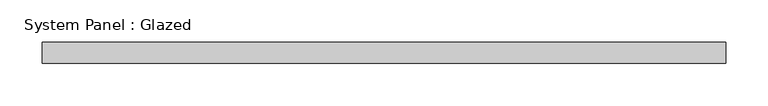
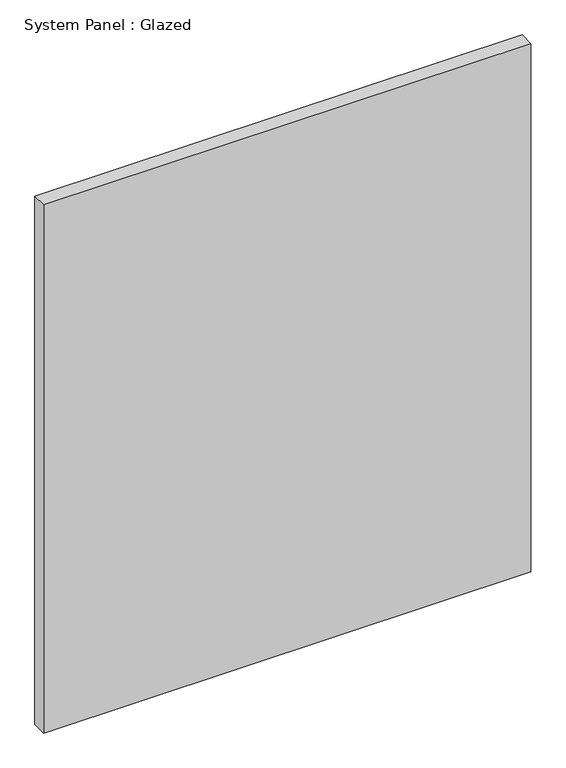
"""IFC4 building model written with IfcOpenShell, lengths in millimetres: plate geometry, System Panel : Glazed."""

from ifc_helpers import new_model, si_unit, origin, origin_with_axes, place, context, project, spatial, polyline, outline, extrude, source, transform, mapped, element, save


def system_panel_glazed_7936f581(model_context):
    return source(origin(), model_context, "Body", "SweptSolid", [
        extrude(outline(polyline([(403.6974994, 24.5), (-403.6974994, 24.5), (-403.6974994, 49.5), (403.6974994, 49.5), (403.6974994, 24.5)])), origin_with_axes(), (0.0, 0.0, 1.0), 925.0),
    ])


if __name__ == "__main__":
    model = new_model("IFC4")
    model_context = context("Model", 3, world=origin())
    ifc_project = project(units=[si_unit("LENGTHUNIT", "METRE", prefix="MILLI")], contexts=[model_context])
    site = spatial("IfcSite", under=ifc_project)
    building = spatial("IfcBuilding", under=site)
    placement = place(None, origin())
    system_panel_glazed_shape = system_panel_glazed_7936f581(model_context)
    element("IfcPlate", 1, ObjectType="System Panel : Glazed", at=placement, inside=building, context=model_context, shape_type="MappedRepresentation", body=[
        mapped(system_panel_glazed_shape, transform((0.0, 0.0, 0.0), x_axis=(1.0, 0.0, 0.0), y_axis=(0.0, 1.0, 0.0), z_axis=(0.0, 0.0, 1.0))),
    ])
    save(model, "model.ifc")
